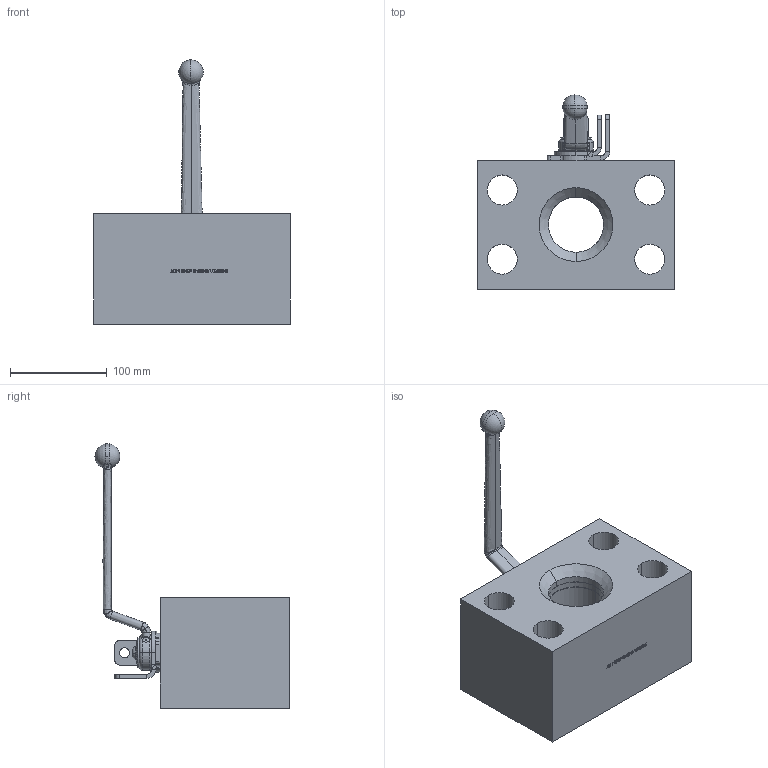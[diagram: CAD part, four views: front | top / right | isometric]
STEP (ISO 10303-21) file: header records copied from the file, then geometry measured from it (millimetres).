
FILE_DESCRIPTION (( 'STEP AP214' ), '1' );
FILE_NAME ('IBF-B-6248-N-D-T OPEN.STEP', '2026-02-24T14:28:31', ( '' ), ( '' ), 'SwSTEP 2.0', 'SolidWorks 2025', '' );
FILE_SCHEMA (( 'AUTOMOTIVE_DESIGN' ));
Products named in the file (1): IBF-B-6248-N-D-T OPEN
Bounding box: 203.2 x 200.59 x 273.05 mm (x, y, z)
Volume: 2438210.4 mm3; surface area: 275492.9 mm2
Topology: 1 solids, 1 shells, 878 faces, 2467 edges, 1637 vertices
Faces by surface type: plane 446, bspline 186, cylinder 160, cone 44, torus 28, sphere 14
Entity records: 48918 total; most frequent: CARTESIAN_POINT 28190, ORIENTED_EDGE 4916, DIRECTION 3389, EDGE_CURVE 2458, VERTEX_POINT 1634, VECTOR 1195, LINE 1195, AXIS2_PLACEMENT_3D 1097
